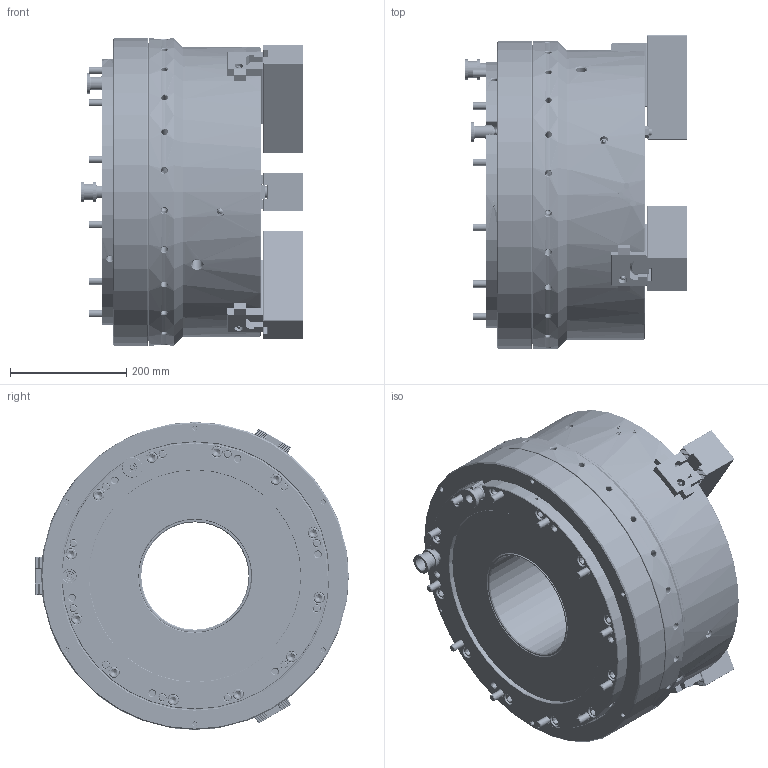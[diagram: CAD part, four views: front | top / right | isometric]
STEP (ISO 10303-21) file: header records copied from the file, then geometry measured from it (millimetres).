
FILE_DESCRIPTION (( 'STEP AP214' ), '1' );
FILE_NAME ('UPR530A185_UC.STEP', '2025-10-24T02:35:17', ( '' ), ( '' ), 'SwSTEP 2.0', 'SolidWorks 2022', '' );
FILE_SCHEMA (( 'AUTOMOTIVE_DESIGN' ));
Length unit declared in the file: millimetre
Products named in the file (5): Copy of 0030120050^UPR530A185_VIEW; Part2^UPR530A185_VIEW; UPR530A185_UC; Copy of 61P493019^UPR530A185_VIEW; Copy of 61P372874^UPR530A185_VIEW
Assembly tree (16 placements, depth 2):
  UPR530A185_UC
    Copy of 61P372874^UPR530A185_VIEW  x3
    Copy of 61P493019^UPR530A185_VIEW  x6
    Copy of 0030120050^UPR530A185_VIEW  x6
    Part2^UPR530A185_VIEW
Bounding box: 383.69 x 540.02 x 530 mm (x, y, z)
Volume: 49371029.7 mm3; surface area: 2314688.9 mm2
Topology: 17 solids, 29 shells, 9023 faces, 24675 edges, 16060 vertices
Faces by surface type: plane 4730, cylinder 2251, bspline 960, cone 938, torus 132, sphere 12
Entity records: 264358 total; most frequent: CARTESIAN_POINT 94804, ORIENTED_EDGE 38282, DIRECTION 29534, EDGE_CURVE 19141, VERTEX_POINT 12505, LINE 12234, VECTOR 12234, AXIS2_PLACEMENT_3D 8650
